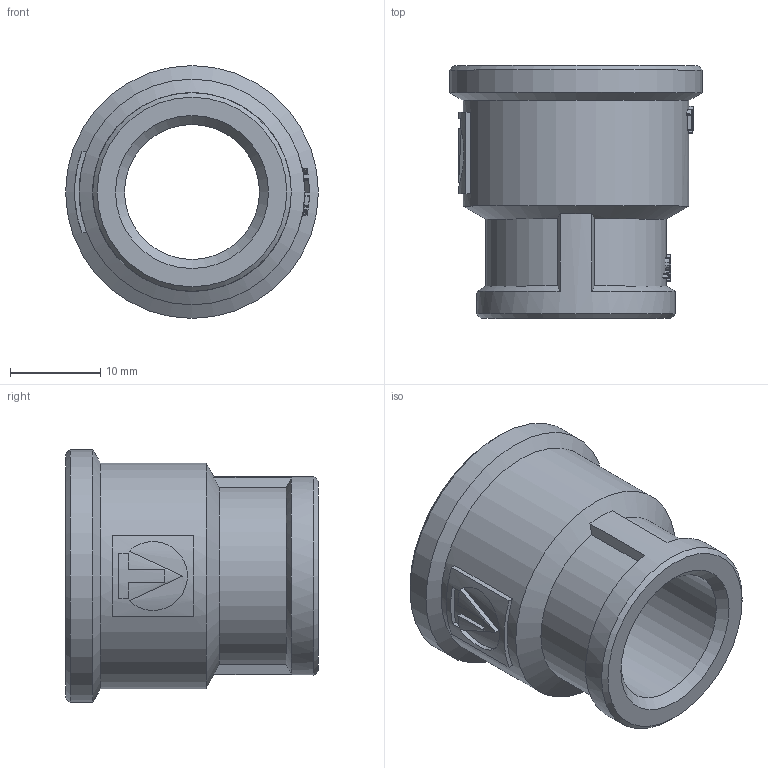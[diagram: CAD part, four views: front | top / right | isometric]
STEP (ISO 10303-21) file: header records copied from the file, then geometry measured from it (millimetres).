
FILE_DESCRIPTION(('STEP AP203'), '1');
FILE_NAME('ÂÐ.714361.002 - VTr.240.N.0403 Ìóôòà G1-2õG3-8', '2024-06-27T08:07:48', ('Boss'), (''), 'C3D Converter', 'C3D Toolkit', '');
FILE_SCHEMA(('CONFIG_CONTROL_DESIGN'));
Length unit declared in the file: millimetre
Products named in the file (1): ВР.714361.002
Bounding box: 28 x 28 x 28 mm (x, y, z)
Volume: 5953.8 mm3; surface area: 4332.1 mm2
Topology: 1 solids, 1 shells, 255 faces, 709 edges, 470 vertices
Faces by surface type: extrusion 142, plane 81, cylinder 23, cone 9
Full cylindrical faces by diameter (mm): 14.95 x1, 18.632 x1, 22 x1, 25 x1, 28 x1
Entity records: 10830 total; most frequent: CARTESIAN_POINT 5059, ORIENTED_EDGE 1392, DIRECTION 756, EDGE_CURVE 696, VERTEX_POINT 470, B_SPLINE_CURVE_WITH_KNOTS 436, VECTOR 408, EDGE_LOOP 284
